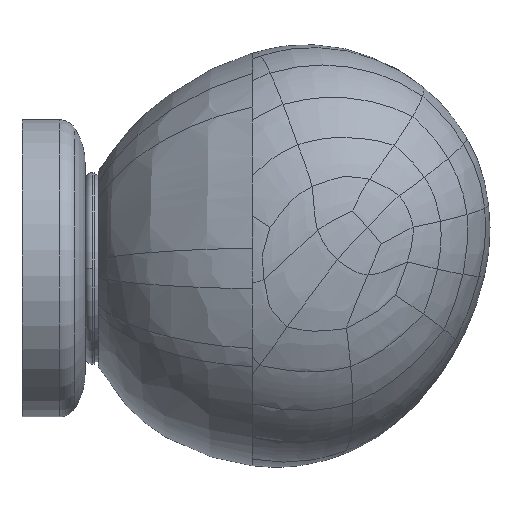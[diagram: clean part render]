
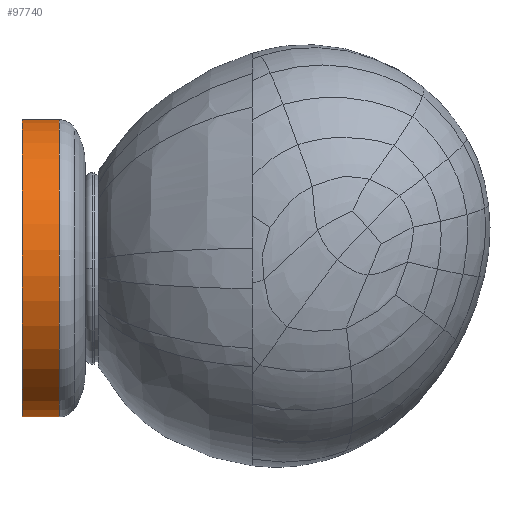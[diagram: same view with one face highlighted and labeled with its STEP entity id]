
A CAD part, left-side view. The second image highlights one B-rep face of the part: STEP entity #97740.
In plain terms, the highlighted cylindrical face has radius 40 mm (diameter 80 mm), a partial arc.
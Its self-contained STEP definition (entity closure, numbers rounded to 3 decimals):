
#4297 = EDGE_CURVE ( 'NONE', #71075, #24535, #110965, .T. ) ;
#8359 = CYLINDRICAL_SURFACE ( 'NONE', #175521, 40. ) ;
#12223 = DIRECTION ( 'NONE',  ( 0., -1., 0. ) ) ;
#14191 = LINE ( 'NONE', #103258, #189204 ) ;
#23819 = AXIS2_PLACEMENT_3D ( 'NONE', #111650, #128598, #68575 ) ;
#24292 = CARTESIAN_POINT ( 'NONE',  ( -107.978, 42.962, 4.567 ) ) ;
#24535 = VERTEX_POINT ( 'NONE', #24292 ) ;
#25599 = EDGE_CURVE ( 'NONE', #33890, #71075, #126113, .T. ) ;
#25790 = CARTESIAN_POINT ( 'NONE',  ( -109.954, 42.962, 44.518 ) ) ;
#28025 = ORIENTED_EDGE ( 'NONE', *, *, #4297, .T. ) ;
#33890 = VERTEX_POINT ( 'NONE', #96909 ) ;
#45530 = CIRCLE ( 'NONE', #119075, 40. ) ;
#55074 = VERTEX_POINT ( 'NONE', #185456 ) ;
#66906 = DIRECTION ( 'NONE',  ( 0., -1., 0. ) ) ;
#68410 = FACE_OUTER_BOUND ( 'NONE', #162142, .T. ) ;
#68575 = DIRECTION ( 'NONE',  ( 0.049, 0., -0.999 ) ) ;
#70380 = DIRECTION ( 'NONE',  ( 0., -1., 0. ) ) ;
#70888 = CARTESIAN_POINT ( 'NONE',  ( -107.978, 52.962, 4.567 ) ) ;
#71075 = VERTEX_POINT ( 'NONE', #70888 ) ;
#83412 = CARTESIAN_POINT ( 'NONE',  ( -109.954, 33.462, 44.518 ) ) ;
#96909 = CARTESIAN_POINT ( 'NONE',  ( -111.931, 52.962, 84.469 ) ) ;
#97740 = ADVANCED_FACE ( 'NONE', ( #68410 ), #8359, .T. ) ;
#100708 = ORIENTED_EDGE ( 'NONE', *, *, #25599, .T. ) ;
#103258 = CARTESIAN_POINT ( 'NONE',  ( -111.931, 33.462, 84.469 ) ) ;
#110965 = LINE ( 'NONE', #188940, #138238 ) ;
#111650 = CARTESIAN_POINT ( 'NONE',  ( -109.954, 52.962, 44.518 ) ) ;
#115583 = ORIENTED_EDGE ( 'NONE', *, *, #146129, .F. ) ;
#116389 = DIRECTION ( 'NONE',  ( 0.049, 0., -0.999 ) ) ;
#119075 = AXIS2_PLACEMENT_3D ( 'NONE', #25790, #147847, #193849 ) ;
#126113 = CIRCLE ( 'NONE', #23819, 40. ) ;
#128598 = DIRECTION ( 'NONE',  ( 0., -1., 0. ) ) ;
#138238 = VECTOR ( 'NONE', #66906, 1000. ) ;
#146129 = EDGE_CURVE ( 'NONE', #33890, #55074, #14191, .T. ) ;
#147847 = DIRECTION ( 'NONE',  ( 0., -1., 0. ) ) ;
#157143 = EDGE_CURVE ( 'NONE', #55074, #24535, #45530, .T. ) ;
#162142 = EDGE_LOOP ( 'NONE', ( #115583, #100708, #28025, #197056 ) ) ;
#175521 = AXIS2_PLACEMENT_3D ( 'NONE', #83412, #70380, #116389 ) ;
#185456 = CARTESIAN_POINT ( 'NONE',  ( -111.931, 42.962, 84.469 ) ) ;
#188940 = CARTESIAN_POINT ( 'NONE',  ( -107.978, 33.462, 4.567 ) ) ;
#189204 = VECTOR ( 'NONE', #12223, 1000. ) ;
#193849 = DIRECTION ( 'NONE',  ( 0.049, 0., -0.999 ) ) ;
#197056 = ORIENTED_EDGE ( 'NONE', *, *, #157143, .F. ) ;
